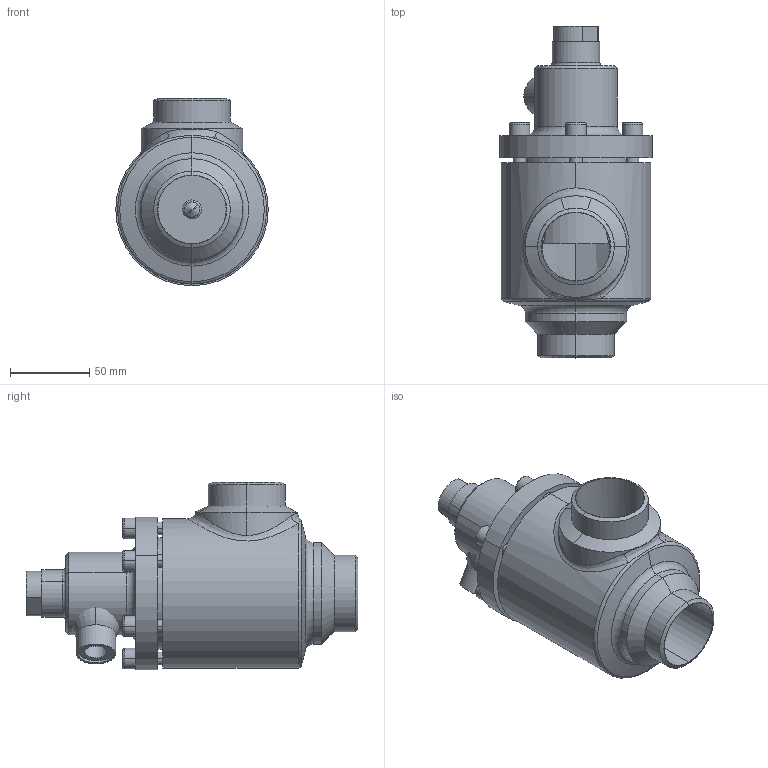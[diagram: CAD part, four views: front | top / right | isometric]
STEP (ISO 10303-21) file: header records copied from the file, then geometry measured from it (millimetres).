
FILE_DESCRIPTION (( 'STEP AP214' ), '1' );
FILE_NAME ('RVD4280xC14-DN40_1-5bar.STEP', '2007-01-10T14:59:13', ( 'Herr Grams' ), ( 'AWP GmbH' ), 'SwSTEP 2.0', 'SolidWorks 2002296', '' );
FILE_SCHEMA (( 'AUTOMOTIVE_DESIGN' ));
Length unit declared in the file: millimetre
Products named in the file (9): RVD4280xC14-DN40_1-5bar; Gehäuse16400-DN040_Standard; RVD42700E15_Deck+Schr-DN40-50_1-5bar_Standard; Deck-kpl42700E15-DN40-50_1-5bar_Standard; Gew-Muffe441_M16x1,5_Standard; Deckel42700E15-DN40-50_1-5bar_PS40_Standard; Schw-Rd25_DN40-50_Standard; Zylinderschraube-DIN912_M 8x 25; Verschlußschr4270xE15-DN40-50_1-9bar_M12x  62_2+4bar
Assembly tree (13 placements, depth 4):
  RVD4280xC14-DN40_1-5bar
    Verschlußschr4270xE15-DN40-50_1-9bar_M12x  62_2+4bar
    RVD42700E15_Deck+Schr-DN40-50_1-5bar_Standard
      Zylinderschraube-DIN912_M 8x 25  x6
      Deck-kpl42700E15-DN40-50_1-5bar_Standard
        Deckel42700E15-DN40-50_1-5bar_PS40_Standard
        Schw-Rd25_DN40-50_Standard
        Gew-Muffe441_M16x1,5_Standard
    Gehäuse16400-DN040_Standard
Bounding box: 96 x 209 x 118 mm (x, y, z)
Volume: 517800 mm3; surface area: 143783.1 mm2
Topology: 11 solids, 11 shells, 241 faces, 523 edges, 325 vertices
Faces by surface type: cylinder 90, plane 86, cone 40, torus 22, bspline 3
Entity records: 14555 total; most frequent: CARTESIAN_POINT 10601, DIRECTION 814, ORIENTED_EDGE 662, AXIS2_PLACEMENT_3D 347, EDGE_CURVE 331, VERTEX_POINT 205, EDGE_LOOP 188, CIRCLE 181
